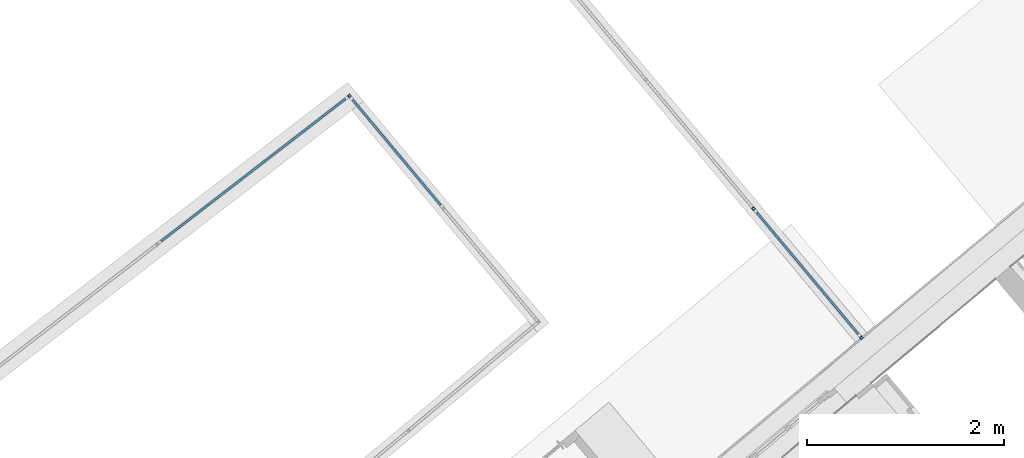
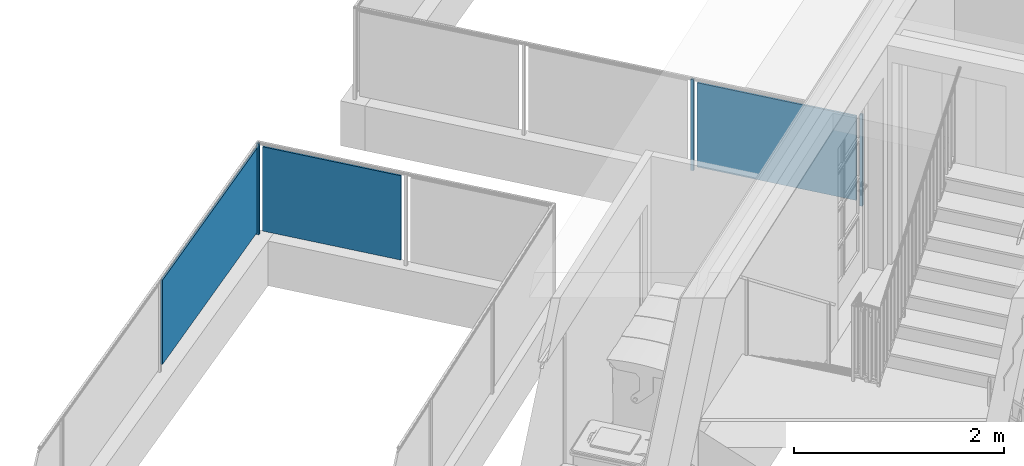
# One storey, part 38 of 67: 6 building element parts, 2 elements without a shape of their own.
"""IFC4 building model written with IfcOpenShell, lengths in metres."""

from ifc_helpers import new_model, entity, si_unit, converted_unit, derived_unit, direction, frame, origin_with_axes, place, context, subcontext, project, spatial, polygons, material, type_object, element, aggregate, save


model = new_model("IFC4")

# Units and contexts
model_context = context("Model", 3, precision=1e-05, world=origin_with_axes(), true_north=direction((0.0, 1.0)))
body_context = subcontext(model_context, "Body", "Model", "MODEL_VIEW")
ifc_project = project(units=[si_unit("LENGTHUNIT", "METRE"), si_unit("AREAUNIT", "SQUARE_METRE"), si_unit("VOLUMEUNIT", "CUBIC_METRE"), converted_unit("PLANEANGLEUNIT", "DEGREE", entity("IfcPlaneAngleMeasure", 0.0174532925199), si_unit("PLANEANGLEUNIT", "RADIAN"), dimensions=[0, 0, 0, 0, 0, 0, 0]), converted_unit("TIMEUNIT", "Year", entity("IfcTimeMeasure", 31556926.0), si_unit("TIMEUNIT", "SECOND"), dimensions=[0, 0, 1, 0, 0, 0, 0]), si_unit("MASSUNIT", "GRAM", prefix="KILO"), si_unit("THERMODYNAMICTEMPERATUREUNIT", "DEGREE_CELSIUS"), si_unit("LUMINOUSINTENSITYUNIT", "LUMEN"), si_unit("ENERGYUNIT", "JOULE", prefix="MEGA"), derived_unit("THERMALCONDUCTANCEUNIT", [(si_unit("POWERUNIT", "WATT"), 1), (si_unit("LENGTHUNIT", "METRE"), -1), (si_unit("THERMODYNAMICTEMPERATUREUNIT", "KELVIN"), -1)]), derived_unit("SPECIFICHEATCAPACITYUNIT", [(si_unit("ENERGYUNIT", "JOULE"), 1), (si_unit("MASSUNIT", "GRAM", prefix="KILO"), -1), (si_unit("THERMODYNAMICTEMPERATUREUNIT", "KELVIN"), -1)]), derived_unit("MASSDENSITYUNIT", [(si_unit("MASSUNIT", "GRAM", prefix="KILO"), 1), (si_unit("VOLUMEUNIT", "CUBIC_METRE"), -1)])], contexts=[model_context])

# Site, building, storey
site_placement = place(None, frame((-0.00153261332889, -0.00661245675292, 0.0), z_axis=(0.0, 0.0, 1.0), x_axis=(1.0, 0.0, 0.0)))
site = spatial("IfcSite", under=ifc_project, at=site_placement, Name="Site", CompositionType="ELEMENT")
building_placement = place(site_placement, origin_with_axes())
building = spatial("IfcBuilding", under=site, at=building_placement, Name="Building", CompositionType="ELEMENT")
storey_placement = place(building_placement, frame((0.0, 0.0, -0.22), z_axis=(0.0, 0.0, 1.0), x_axis=(1.0, 0.0, 0.0)))
storey = spatial("IfcBuildingStorey", under=building, at=storey_placement, Name="EG", CompositionType="ELEMENT", Elevation=-0.22)

# Railing, building element parts
railing_type = type_object("IfcRailingType", Name="Geländerart", PredefinedType="NOTDEFINED")
railing_1_placement = place(storey_placement, frame((-6.36726458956, 22.4448248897, 0.523948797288), z_axis=(0.0, 0.0, 1.0), x_axis=(1.0, 0.0, 0.0)))
railing_1 = element("IfcRailing", 1, at=railing_1_placement, inside=storey, type_object=railing_type, Name="Geländer - 001", PredefinedType="NOTDEFINED")
ifc_material_1 = material(Name="Aluminium")
building_element_part_1_placement = place(railing_1_placement, origin_with_axes())
building_element_part_1 = element("IfcBuildingElementPart", 2, at=building_element_part_1_placement, material=ifc_material_1, Name="Aluminium", PredefinedType="NOTDEFINED", context=body_context, shape_type="Tessellation", body=[
    polygons([(1.39638766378, 6.51133462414, 0.0), (1.37336668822, 6.49209833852, 0.0), (1.37336668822, 6.49209833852, 1.06), (1.39638766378, 6.51133462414, 1.06), (1.4156239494, 6.48831364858, 0.0), (1.39260297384, 6.46907736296, 0.0), (1.39575688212, 6.50429174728, 0.0), (1.38040956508, 6.49146755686, 0.0), (1.3932337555, 6.47612023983, 0.0), (1.40858107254, 6.48894443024, 0.0), (1.39260297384, 6.46907736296, 1.06), (1.4156239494, 6.48831364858, 1.06), (1.39575688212, 6.50429174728, 1.06), (1.40858107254, 6.48894443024, 1.06), (1.3932337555, 6.47612023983, 1.06), (1.38040956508, 6.49146755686, 1.06)], [[[1, 2, 3, 4]], [[1, 5, 6, 2], [7, 8, 9, 10]], [[2, 6, 11, 3]], [[4, 3, 11, 12], [13, 14, 15, 16]], [[5, 1, 4, 12]], [[6, 5, 12, 11]], [[8, 7, 13, 16]], [[9, 8, 16, 15]], [[10, 9, 15, 14]], [[7, 10, 14, 13]]], closed=True),
])
ifc_material_2 = material(Name="Zaun")
building_element_part_2_placement = place(railing_1_placement, origin_with_axes())
building_element_part_2 = element("IfcBuildingElementPart", 3, at=building_element_part_2_placement, material=ifc_material_2, Name="Zaun", PredefinedType="NOTDEFINED", context=body_context, shape_type="Tessellation", body=[
    polygons([(1.41888213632, 6.44542560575, 0.05), (2.31664610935, 5.37102886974, 0.05), (2.31664610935, 5.37102886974, 1.03), (1.41888213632, 6.44542560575, 1.03), (2.33199342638, 5.38385306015, 0.05), (1.43422945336, 6.45824979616, 0.05), (2.33199342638, 5.38385306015, 1.03), (1.43422945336, 6.45824979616, 1.03)], [[[1, 2, 3, 4]], [[5, 2, 1, 6]], [[7, 3, 2, 5]], [[4, 3, 7, 8]], [[1, 4, 8, 6]], [[7, 5, 6, 8]]], closed=True),
])
building_element_part_3_placement = place(railing_1_placement, origin_with_axes())
building_element_part_3 = element("IfcBuildingElementPart", 4, at=building_element_part_3_placement, material=ifc_material_2, Name="Zaun", PredefinedType="NOTDEFINED", context=body_context, shape_type="Tessellation", body=[
    polygons([(-0.514703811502, 5.00356947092, 0.05), (1.36102929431, 6.45173489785, 0.05), (1.36102929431, 6.45173489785, 1.03), (-0.514703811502, 5.00356947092, 1.03), (1.34880702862, 6.46756576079, 0.05), (-0.526926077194, 5.01940033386, 0.05), (1.34880702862, 6.46756576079, 1.03), (-0.526926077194, 5.01940033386, 1.03)], [[[1, 2, 3, 4]], [[5, 2, 1, 6]], [[7, 3, 2, 5]], [[4, 3, 7, 8]], [[1, 4, 8, 6]], [[7, 5, 6, 8]]], closed=True),
])
aggregate(railing_1, [building_element_part_1, building_element_part_2, building_element_part_3])

railing_2_placement = place(storey_placement, frame((0.180685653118, 26.4249004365, 0.523948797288), z_axis=(0.0, 0.0, 1.0), x_axis=(1.0, 0.0, 0.0)))
railing_2 = element("IfcRailing", 5, at=railing_2_placement, inside=storey, type_object=railing_type, Name="Geländer - 001", PredefinedType="NOTDEFINED")
building_element_part_4_placement = place(railing_2_placement, origin_with_axes())
building_element_part_4 = element("IfcBuildingElementPart", 6, at=building_element_part_4_placement, material=ifc_material_1, Name="Aluminium", PredefinedType="NOTDEFINED", context=body_context, shape_type="Tessellation", body=[
    polygons([(0.0594552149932, 0.069210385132, 0.0), (0.0364313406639, 0.0499775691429, 0.0), (0.0364313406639, 0.0499775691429, 1.06), (0.0594552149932, 0.069210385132, 1.06), (0.0786880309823, 0.0461865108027, 0.0), (0.055664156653, 0.0269536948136, 0.0), (0.0588233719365, 0.0621676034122, 0.0), (0.0434741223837, 0.0493457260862, 0.0), (0.0562959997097, 0.0339964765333, 0.0), (0.0716452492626, 0.0468183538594, 0.0), (0.055664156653, 0.0269536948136, 1.06), (0.0786880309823, 0.0461865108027, 1.06), (0.0588233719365, 0.0621676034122, 1.06), (0.0716452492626, 0.0468183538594, 1.06), (0.0562959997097, 0.0339964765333, 1.06), (0.0434741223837, 0.0493457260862, 1.06)], [[[1, 2, 3, 4]], [[1, 5, 6, 2], [7, 8, 9, 10]], [[2, 6, 11, 3]], [[4, 3, 11, 12], [13, 14, 15, 16]], [[5, 1, 4, 12]], [[6, 5, 12, 11]], [[8, 7, 13, 16]], [[9, 8, 16, 15]], [[10, 9, 15, 14]], [[7, 10, 14, 13]]], closed=True),
])
building_element_part_5_placement = place(railing_2_placement, origin_with_axes())
building_element_part_5 = element("IfcBuildingElementPart", 7, at=building_element_part_5_placement, material=ifc_material_2, Name="Zaun", PredefinedType="NOTDEFINED", context=body_context, shape_type="Tessellation", body=[
    polygons([(-1.01535492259, 1.3168848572, 0.05), (0.0178303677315, 0.0800442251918, 0.05), (0.0178303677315, 0.0800442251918, 1.03), (-1.01535492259, 1.3168848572, 1.03), (0.0331796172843, 0.0928661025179, 0.05), (-1.00000567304, 1.32970673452, 0.05), (0.0331796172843, 0.0928661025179, 1.03), (-1.00000567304, 1.32970673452, 1.03)], [[[1, 2, 3, 4]], [[5, 2, 1, 6]], [[7, 3, 2, 5]], [[4, 3, 7, 8]], [[1, 4, 8, 6]], [[7, 5, 6, 8]]], closed=True),
])
building_element_part_6_placement = place(railing_2_placement, origin_with_axes())
building_element_part_6 = element("IfcBuildingElementPart", 8, at=building_element_part_6_placement, material=ifc_material_1, Name="Aluminium", PredefinedType="NOTDEFINED", context=body_context, shape_type="Tessellation", body=[
    polygons([(-1.03783946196, 1.3827972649, 0.0), (-1.06086333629, 1.36356444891, 0.0), (-1.06086333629, 1.36356444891, 1.06), (-1.03783946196, 1.3827972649, 1.06), (-1.01860664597, 1.35977339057, 0.0), (-1.0416305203, 1.34054057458, 0.0), (-1.03847130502, 1.37575448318, 0.0), (-1.05382055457, 1.36293260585, 0.0), (-1.04099867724, 1.3475833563, 0.0), (-1.02564942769, 1.36040523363, 0.0), (-1.0416305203, 1.34054057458, 1.06), (-1.01860664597, 1.35977339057, 1.06), (-1.03847130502, 1.37575448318, 1.06), (-1.02564942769, 1.36040523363, 1.06), (-1.04099867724, 1.3475833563, 1.06), (-1.05382055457, 1.36293260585, 1.06)], [[[1, 2, 3, 4]], [[1, 5, 6, 2], [7, 8, 9, 10]], [[2, 6, 11, 3]], [[4, 3, 11, 12], [13, 14, 15, 16]], [[5, 1, 4, 12]], [[6, 5, 12, 11]], [[8, 7, 13, 16]], [[9, 8, 16, 15]], [[10, 9, 15, 14]], [[7, 10, 14, 13]]], closed=True),
])
aggregate(railing_2, [building_element_part_4, building_element_part_5, building_element_part_6])

save(model, "model.ifc")
